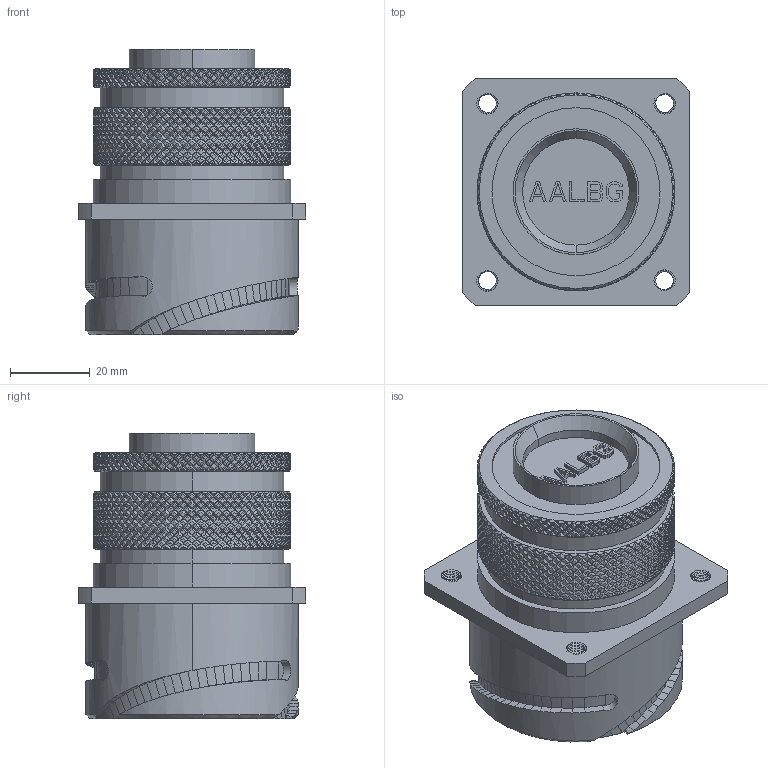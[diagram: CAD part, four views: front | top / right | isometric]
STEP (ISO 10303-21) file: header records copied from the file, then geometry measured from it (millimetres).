
FILE_DESCRIPTION((''),'2;1');
FILE_NAME('GCE3100E32M240P-B-T3_SW0001','2023-06-23T10:38:19',('paultorloting'),('NET AG system integration'),'CREO PARAMETRIC BY PTC INC, 2021404','CREO PARAMETRIC BY PTC INC, 2021404','');
FILE_SCHEMA(('AUTOMOTIVE_DESIGN { 1 0 10303 214 1 1 1 1 }'));
Products named in the file (1): GCE3100E32M240P-B-T3_SW0001
Bounding box: 57 x 57 x 71.6 mm (x, y, z)
Volume: 110030.8 mm3; surface area: 30203.6 mm2
Topology: 1 solids, 1 shells, 10909 faces, 24249 edges, 13366 vertices
Faces by surface type: bspline 6058, plane 3150, cylinder 1366, extrusion 298, cone 25, torus 12
Entity records: 476199 total; most frequent: CARTESIAN_POINT 223113, ORIENTED_EDGE 48498, EDGE_CURVE 24249, B_SPLINE_CURVE_WITH_KNOTS 20780, DIRECTION 13600, VERTEX_POINT 13366, PRESENTATION_STYLE_ASSIGNMENT 11055, STYLED_ITEM 11055
